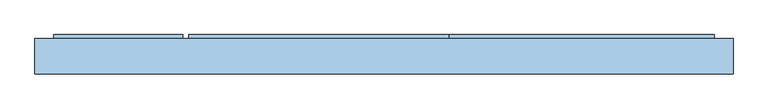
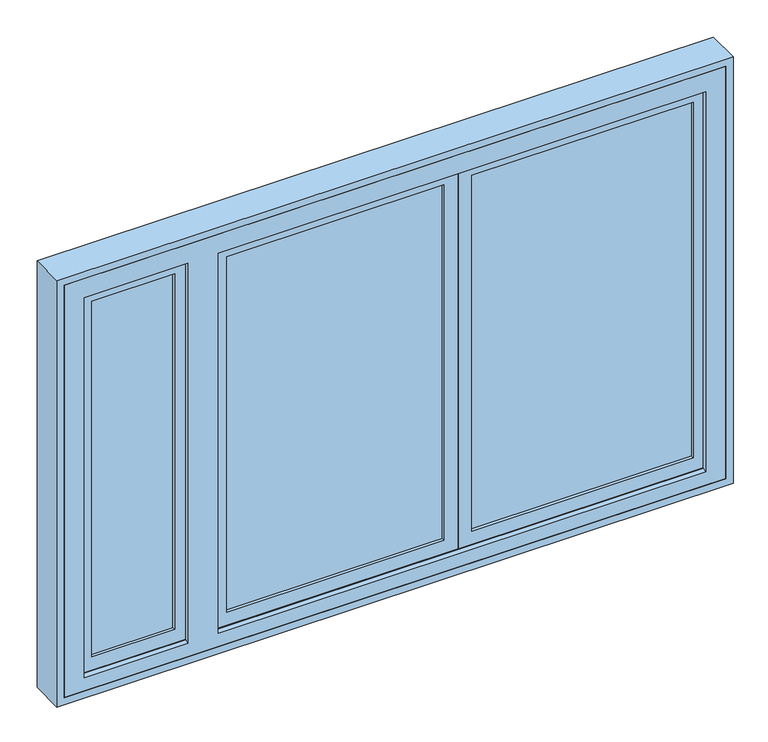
"""IFC4 building model written with IfcOpenShell, lengths in millimetres: window geometry, Окно 3-Распашное - Разделенные наружные и парные внутренние переплеты с остеклением - ГОСТ 11214-2003 : ОД РСП Г1 1760-2670-138 ГОСТ 11214-2003."""

from ifc_helpers import new_model, si_unit, frame, origin, place, context, project, spatial, polyline, outline, extrude, faceted_brep, source, transform, mapped, element, save


def window_e44eff39(model_context):
    return source(origin(), model_context, "Body", "SolidModel", [
        extrude(outline(polyline([(2620.0, 1345.0), (2620.0, -1385.0), (800.0, -1385.0), (800.0, 1345.0), (2620.0, 1345.0)]), holes=[polyline([(2590.0, -1355.0), (2590.0, 1315.0), (830.0, 1315.0), (830.0, -1355.0), (2590.0, -1355.0)])]), frame((0.0, -305.0, 0.0), z_axis=(0.0, 1.0, 0.0), x_axis=(0.0, 0.0, 1.0)), (0.0, 0.0, 1.0), 138.0),
        extrude(outline(polyline([(1226.0383918, -168.0), (280.5, -168.0), (280.5, -165.0), (1226.0383918, -165.0), (1226.0383918, -168.0)])), frame((0.0, 0.0, 919.0), z_axis=(0.0, 0.0, 1.0), x_axis=(1.0, 0.0, 0.0)), (0.0, 0.0, 1.0), 1582.0),
        extrude(outline(polyline([(1226.0, -215.0), (280.5, -215.0), (280.5, -212.0), (1226.0, -212.0), (1226.0, -215.0)])), frame((0.0, 0.0, 919.0), z_axis=(0.0, 0.0, 1.0), x_axis=(1.0, 0.0, 0.0)), (0.0, 0.0, 1.0), 1582.0),
        extrude(outline(polyline([(207.5, -168.0), (-739.0, -168.0), (-739.0, -165.0), (207.5, -165.0), (207.5, -168.0)])), frame((0.0, 0.0, 919.0), z_axis=(0.0, 0.0, 1.0), x_axis=(1.0, 0.0, 0.0)), (0.0, 0.0, 1.0), 1582.0),
        extrude(outline(polyline([(207.5, -215.0), (-739.0, -215.0), (-739.0, -212.0), (207.5, -212.0), (207.5, -215.0)])), frame((0.0, 0.0, 919.0), z_axis=(0.0, 0.0, 1.0), x_axis=(1.0, 0.0, 0.0)), (0.0, 0.0, 1.0), 1582.0),
        extrude(outline(polyline([(-851.0, -168.0), (-1266.0, -168.0), (-1266.0, -165.0), (-851.0, -165.0), (-851.0, -168.0)])), frame((0.0, 0.0, 919.0), z_axis=(0.0, 0.0, 1.0), x_axis=(1.0, 0.0, 0.0)), (0.0, 0.0, 1.0), 1582.0),
        extrude(outline(polyline([(-851.0, -215.0), (-1266.0, -215.0), (-1266.0, -212.0), (-851.0, -212.0), (-851.0, -215.0)])), frame((0.0, 0.0, 919.0), z_axis=(0.0, 0.0, 1.0), x_axis=(1.0, 0.0, 0.0)), (0.0, 0.0, 1.0), 1582.0),
        extrude(outline(polyline([(1214.0, -275.0), (280.5, -275.0), (280.5, -272.0), (1214.0, -272.0), (1214.0, -275.0)])), frame((0.0, 0.0, 931.0), z_axis=(0.0, 0.0, 1.0), x_axis=(1.0, 0.0, 0.0)), (0.0, 0.0, 1.0), 1558.0),
        extrude(outline(polyline([(207.5, -275.0), (-710.0, -275.0), (-710.0, -272.0), (207.5, -272.0), (207.5, -275.0)])), frame((0.0, 0.0, 931.0), z_axis=(0.0, 0.0, 1.0), x_axis=(1.0, 0.0, 0.0)), (0.0, 0.0, 1.0), 1558.0),
        extrude(outline(polyline([(-880.0, -275.0), (-1254.0, -275.0), (-1254.0, -272.0), (-880.0, -272.0), (-880.0, -275.0)])), frame((0.0, 0.0, 931.0), z_axis=(0.0, 0.0, 1.0), x_axis=(1.0, 0.0, 0.0)), (0.0, 0.0, 1.0), 1558.0),
        faceted_brep([(1259.0, -259.0, 2534.0), (1259.0, -259.0, 886.0), (1259.0, -249.0, 886.0), (1259.0, -249.0, 2534.0), (235.5, -249.0, 886.0), (235.5, -249.0, 2534.0), (1194.0, -249.0, 951.0), (1194.0, -249.0, 2469.0), (300.5, -249.0, 2469.0), (300.5, -249.0, 951.0), (235.5, -259.0, 886.0), (235.5, -259.0, 2534.0), (1250.0, -259.0, 2525.0), (1250.0, -259.0, 895.0), (244.5, -259.0, 895.0), (244.5, -259.0, 2525.0), (1250.0, -288.0, 2525.0), (1250.0, -288.0, 895.0), (244.5, -288.0, 895.0), (244.5, -288.0, 2525.0), (1194.0, -288.0, 2469.0), (1194.0, -288.0, 951.0), (300.5, -288.0, 951.0), (300.5, -288.0, 2469.0), (1194.0, -275.0, 2469.0), (1194.0, -275.0, 951.0), (300.5, -275.0, 951.0), (1214.0, -275.0, 2489.0), (1214.0, -275.0, 931.0), (280.5, -275.0, 931.0), (280.5, -275.0, 2489.0), (300.5, -275.0, 2469.0), (1214.0, -272.0, 2489.0), (1214.0, -272.0, 931.0), (280.5, -272.0, 931.0), (280.5, -272.0, 2489.0), (1194.0, -272.0, 2469.0), (1194.0, -272.0, 951.0), (300.5, -272.0, 951.0), (300.5, -272.0, 2469.0)], [[[0, 1, 2, 3]], [[3, 2, 4, 5], [6, 7, 8, 9]], [[1, 10, 4, 2]], [[1, 0, 11, 10], [12, 13, 14, 15]], [[16, 17, 13, 12]], [[17, 18, 14, 13]], [[17, 16, 19, 18], [20, 21, 22, 23]], [[24, 25, 21, 20]], [[25, 26, 22, 21]], [[27, 28, 29, 30], [25, 24, 31, 26]], [[32, 33, 28, 27]], [[33, 34, 29, 28]], [[33, 32, 35, 34], [36, 37, 38, 39]], [[7, 6, 37, 36]], [[6, 9, 38, 37]], [[10, 11, 5, 4]], [[18, 19, 15, 14]], [[26, 31, 23, 22]], [[34, 35, 30, 29]], [[9, 8, 39, 38]], [[11, 0, 3, 5]], [[19, 16, 12, 15]], [[31, 24, 20, 23]], [[35, 32, 27, 30]], [[8, 7, 36, 39]]]),
        faceted_brep([(1206.0, -215.0, 2481.0), (1206.0, -215.0, 939.0), (1206.0, -228.0, 939.0), (1206.0, -228.0, 2481.0), (1262.0, -228.0, 883.0), (1262.0, -228.0, 2537.0), (244.5, -228.0, 2537.0), (244.5, -228.0, 883.0), (300.5, -228.0, 939.0), (300.5, -228.0, 2481.0), (300.5, -215.0, 939.0), (1226.0, -215.0, 2501.0), (1226.0, -215.0, 919.0), (280.5, -215.0, 919.0), (280.5, -215.0, 2501.0), (300.5, -215.0, 2481.0), (1226.0, -212.0, 2501.0), (1226.0, -212.0, 919.0), (280.5, -212.0, 919.0), (280.5, -212.0, 2501.0), (1206.0, -212.0, 2481.0), (1206.0, -212.0, 939.0), (300.5, -212.0, 939.0), (300.5, -212.0, 2481.0), (1206.0, -196.0, 2481.0), (1206.0, -196.0, 939.0), (300.5, -196.0, 939.0), (1262.0, -196.0, 2537.0), (1262.0, -196.0, 883.0), (244.5, -196.0, 883.0), (244.5, -196.0, 2537.0), (300.5, -196.0, 2481.0)], [[[0, 1, 2, 3]], [[4, 5, 6, 7], [3, 2, 8, 9]], [[1, 10, 8, 2]], [[11, 12, 13, 14], [1, 0, 15, 10]], [[16, 17, 12, 11]], [[17, 18, 13, 12]], [[17, 16, 19, 18], [20, 21, 22, 23]], [[24, 25, 21, 20]], [[25, 26, 22, 21]], [[27, 28, 29, 30], [25, 24, 31, 26]], [[5, 4, 28, 27]], [[4, 7, 29, 28]], [[10, 15, 9, 8]], [[18, 19, 14, 13]], [[26, 31, 23, 22]], [[7, 6, 30, 29]], [[15, 0, 3, 9]], [[19, 16, 11, 14]], [[31, 24, 20, 23]], [[6, 5, 27, 30]]]),
        faceted_brep([(1262.0, -194.0, 2537.0), (1262.0, -194.0, 883.0), (1262.0, -165.0, 883.0), (1262.0, -165.0, 2537.0), (1271.0, -165.0, 874.0), (1271.0, -165.0, 2546.0), (235.5, -165.0, 2546.0), (235.5, -165.0, 874.0), (244.5, -165.0, 883.0), (244.5, -165.0, 2537.0), (244.5, -194.0, 883.0), (244.5, -194.0, 2537.0), (1206.0, -194.0, 2481.0), (1206.0, -194.0, 939.0), (300.5, -194.0, 939.0), (300.5, -194.0, 2481.0), (1206.0, -152.0, 2481.0), (1206.0, -152.0, 939.0), (1206.0, -165.0, 939.0), (1206.0, -165.0, 2481.0), (1226.0, -165.0, 919.0), (1226.0, -165.0, 2501.0), (280.5, -165.0, 2501.0), (280.5, -165.0, 919.0), (300.5, -165.0, 939.0), (300.5, -165.0, 2481.0), (300.5, -152.0, 939.0), (1271.0, -152.0, 2546.0), (1271.0, -152.0, 874.0), (235.5, -152.0, 874.0), (235.5, -152.0, 2546.0), (300.5, -152.0, 2481.0), (300.5, -168.0, 939.0), (300.5, -168.0, 2481.0), (1206.0, -168.0, 939.0), (1206.0, -168.0, 2481.0), (1226.0, -168.0, 2501.0), (1226.0, -168.0, 919.0), (280.5, -168.0, 919.0), (280.5, -168.0, 2501.0)], [[[0, 1, 2, 3]], [[4, 5, 6, 7], [3, 2, 8, 9]], [[1, 10, 8, 2]], [[1, 0, 11, 10], [12, 13, 14, 15]], [[16, 17, 18, 19]], [[20, 21, 22, 23], [19, 18, 24, 25]], [[17, 26, 24, 18]], [[27, 28, 29, 30], [17, 16, 31, 26]], [[5, 4, 28, 27]], [[4, 7, 29, 28]], [[10, 11, 9, 8]], [[26, 31, 25, 24]], [[7, 6, 30, 29]], [[32, 33, 15, 14]], [[34, 32, 14, 13]], [[35, 34, 13, 12]], [[36, 37, 38, 39], [34, 35, 33, 32]], [[21, 20, 37, 36]], [[20, 23, 38, 37]], [[23, 22, 39, 38]], [[11, 0, 3, 9]], [[31, 16, 19, 25]], [[6, 5, 27, 30]], [[33, 35, 12, 15]], [[22, 21, 36, 39]]]),
        faceted_brep([(232.5, -259.0, 2525.0), (232.5, -261.0, 2525.0), (232.5, -261.0, 895.0), (232.5, -259.0, 895.0), (232.5, -259.0, 886.0), (232.5, -249.0, 886.0), (232.5, -249.0, 2534.0), (232.5, -259.0, 2534.0), (-755.0, -249.0, 886.0), (-755.0, -249.0, 2534.0), (-690.0, -249.0, 2469.0), (-690.0, -249.0, 951.0), (187.5, -249.0, 951.0), (187.5, -249.0, 2469.0), (-755.0, -259.0, 886.0), (-755.0, -259.0, 2534.0), (-746.0, -259.0, 895.0), (-746.0, -259.0, 2525.0), (242.5, -261.0, 895.0), (242.5, -288.0, 895.0), (-746.0, -288.0, 895.0), (242.5, -261.0, 2525.0), (-746.0, -288.0, 2525.0), (187.5, -272.0, 2469.0), (187.5, -272.0, 951.0), (-690.0, -272.0, 951.0), (-690.0, -272.0, 2469.0), (-710.0, -272.0, 931.0), (207.5, -272.0, 931.0), (207.5, -272.0, 2489.0), (-710.0, -272.0, 2489.0), (-710.0, -275.0, 2489.0), (-710.0, -275.0, 931.0), (207.5, -275.0, 931.0), (207.5, -275.0, 2489.0), (-690.0, -275.0, 2469.0), (-690.0, -275.0, 951.0), (187.5, -275.0, 951.0), (187.5, -275.0, 2469.0), (187.5, -288.0, 2469.0), (187.5, -288.0, 951.0), (-690.0, -288.0, 951.0), (-690.0, -288.0, 2469.0), (242.5, -288.0, 2525.0)], [[[0, 1, 2, 3, 4, 5, 6, 7]], [[5, 8, 9, 6], [10, 11, 12, 13]], [[14, 8, 5, 4]], [[7, 15, 14, 4, 3, 16, 17, 0]], [[16, 3, 2, 18, 19, 20]], [[21, 18, 2, 1]], [[16, 20, 22, 17]], [[15, 9, 8, 14]], [[23, 13, 12, 24]], [[25, 24, 12, 11]], [[10, 26, 25, 11]], [[27, 28, 29, 30], [26, 23, 24, 25]], [[30, 31, 32, 27]], [[28, 33, 34, 29]], [[33, 28, 27, 32]], [[31, 34, 33, 32], [35, 36, 37, 38]], [[39, 38, 37, 40]], [[41, 40, 37, 36]], [[35, 42, 41, 36]], [[43, 22, 20, 19], [42, 39, 40, 41]], [[43, 19, 18, 21]], [[6, 9, 15, 7]], [[43, 21, 1, 0, 17, 22]], [[10, 13, 23, 26]], [[29, 34, 31, 30]], [[35, 38, 39, 42]]]),
        faceted_brep([(232.5, -152.0, 874.0), (232.5, -152.0, 2546.0), (232.5, -165.0, 2546.0), (232.5, -165.0, 2536.0), (232.5, -167.0, 2536.0), (232.5, -167.0, 884.0), (232.5, -165.0, 884.0), (232.5, -165.0, 874.0), (-784.0, -165.0, 874.0), (-784.0, -152.0, 874.0), (-774.0, -165.0, 884.0), (-774.0, -165.0, 2536.0), (-784.0, -165.0, 2546.0), (242.5, -167.0, 884.0), (242.5, -194.0, 884.0), (-774.0, -194.0, 884.0), (242.5, -167.0, 2536.0), (-784.0, -152.0, 2546.0), (-719.0, -152.0, 939.0), (187.5, -152.0, 939.0), (187.5, -152.0, 2481.0), (-719.0, -152.0, 2481.0), (-774.0, -194.0, 2536.0), (242.5, -194.0, 2536.0), (-719.0, -194.0, 939.0), (-719.0, -194.0, 2481.0), (187.5, -194.0, 2481.0), (187.5, -194.0, 939.0), (187.5, -168.0, 939.0), (-719.0, -168.0, 939.0), (187.5, -168.0, 2481.0), (-719.0, -168.0, 2481.0), (-739.0, -168.0, 2501.0), (207.5, -168.0, 2501.0), (207.5, -168.0, 919.0), (-739.0, -168.0, 919.0), (-739.0, -165.0, 919.0), (-739.0, -165.0, 2501.0), (207.5, -165.0, 919.0), (207.5, -165.0, 2501.0), (-719.0, -165.0, 939.0), (-719.0, -165.0, 2481.0), (187.5, -165.0, 2481.0), (187.5, -165.0, 939.0)], [[[0, 1, 2, 3, 4, 5, 6, 7]], [[7, 8, 9, 0]], [[10, 11, 3, 2, 12, 8, 7, 6]], [[10, 6, 5, 13, 14, 15]], [[16, 13, 5, 4]], [[0, 9, 17, 1], [18, 19, 20, 21]], [[15, 22, 11, 10]], [[14, 23, 22, 15], [24, 25, 26, 27]], [[23, 14, 13, 16]], [[24, 27, 28, 29]], [[28, 27, 26, 30]], [[24, 29, 31, 25]], [[32, 33, 34, 35], [29, 28, 30, 31]], [[35, 36, 37, 32]], [[34, 38, 36, 35]], [[33, 39, 38, 34]], [[36, 38, 39, 37], [40, 41, 42, 43]], [[40, 43, 19, 18]], [[19, 43, 42, 20]], [[40, 18, 21, 41]], [[9, 8, 12, 17]], [[23, 16, 4, 3, 11, 22]], [[17, 12, 2, 1]], [[31, 30, 26, 25]], [[39, 33, 32, 37]], [[21, 20, 42, 41]]]),
        faceted_brep([(-763.0, -228.0, 884.0), (-763.0, -228.0, 2536.0), (-763.0, -196.0, 2536.0), (-763.0, -196.0, 884.0), (242.5, -196.0, 884.0), (242.5, -228.0, 884.0), (242.5, -196.0, 2536.0), (187.5, -196.0, 939.0), (187.5, -196.0, 2481.0), (-719.0, -196.0, 2481.0), (-719.0, -196.0, 939.0), (242.5, -228.0, 2536.0), (187.5, -228.0, 2481.0), (187.5, -228.0, 939.0), (-719.0, -228.0, 939.0), (-719.0, -228.0, 2481.0), (-719.0, -215.0, 2481.0), (-719.0, -215.0, 939.0), (187.5, -215.0, 939.0), (187.5, -215.0, 2481.0), (207.5, -215.0, 919.0), (-739.0, -215.0, 919.0), (-739.0, -215.0, 2501.0), (207.5, -215.0, 2501.0), (207.5, -212.0, 2501.0), (207.5, -212.0, 919.0), (-739.0, -212.0, 919.0), (-739.0, -212.0, 2501.0), (187.5, -212.0, 2481.0), (187.5, -212.0, 939.0), (-719.0, -212.0, 939.0), (-719.0, -212.0, 2481.0)], [[[0, 1, 2, 3]], [[0, 3, 4, 5]], [[2, 6, 4, 3], [7, 8, 9, 10]], [[0, 5, 11, 1], [12, 13, 14, 15]], [[16, 15, 14, 17]], [[18, 17, 14, 13]], [[12, 19, 18, 13]], [[5, 4, 6, 11]], [[20, 21, 22, 23], [19, 16, 17, 18]], [[23, 24, 25, 20]], [[21, 26, 27, 22]], [[26, 21, 20, 25]], [[24, 27, 26, 25], [28, 29, 30, 31]], [[9, 31, 30, 10]], [[7, 10, 30, 29]], [[28, 8, 7, 29]], [[11, 6, 2, 1]], [[12, 15, 16, 19]], [[22, 27, 24, 23]], [[28, 31, 9, 8]]]),
        faceted_brep([(-827.0, -228.0, 884.0), (-1301.0, -228.0, 884.0), (-1301.0, -196.0, 884.0), (-827.0, -196.0, 884.0), (-827.0, -196.0, 2536.0), (-827.0, -228.0, 2536.0), (-1301.0, -196.0, 2536.0), (-870.8851315, -196.0, 2481.0), (-1246.0, -196.0, 2481.0), (-1246.0, -196.0, 939.0), (-870.8851315, -196.0, 939.0), (-1301.0, -228.0, 2536.0), (-870.8851315, -228.0, 939.0), (-1246.0, -228.0, 939.0), (-1246.0, -228.0, 2481.0), (-870.8851315, -228.0, 2481.0), (-1266.0, -215.0, 919.0), (-1266.0, -212.0, 919.0), (-1266.0, -212.0, 2501.0), (-1266.0, -215.0, 2501.0), (-851.0, -215.0, 2501.0), (-851.0, -215.0, 919.0), (-870.8851315, -215.0, 2481.0), (-1246.0, -215.0, 2481.0), (-1246.0, -215.0, 939.0), (-870.8851315, -215.0, 939.0), (-851.0, -212.0, 919.0), (-851.0, -212.0, 2501.0), (-870.8851315, -212.0, 939.0), (-1246.0, -212.0, 939.0), (-1246.0, -212.0, 2481.0), (-870.8851315, -212.0, 2481.0)], [[[0, 1, 2, 3]], [[0, 3, 4, 5]], [[4, 3, 2, 6], [7, 8, 9, 10]], [[2, 1, 11, 6]], [[11, 1, 0, 5], [12, 13, 14, 15]], [[16, 17, 18, 19]], [[19, 20, 21, 16], [22, 23, 24, 25]], [[21, 26, 17, 16]], [[20, 27, 26, 21]], [[25, 12, 15, 22]], [[13, 12, 25, 24]], [[13, 24, 23, 14]], [[17, 26, 27, 18], [28, 29, 30, 31]], [[31, 7, 10, 28]], [[8, 30, 29, 9]], [[29, 28, 10, 9]], [[4, 6, 11, 5]], [[27, 20, 19, 18]], [[23, 22, 15, 14]], [[8, 7, 31, 30]]]),
        faceted_brep([(-844.0, -288.0, 2525.0), (-844.0, -288.0, 895.0), (-844.0, -259.0, 895.0), (-844.0, -259.0, 2525.0), (-835.0, -259.0, 886.0), (-835.0, -259.0, 2534.0), (-1299.0, -259.0, 2534.0), (-1299.0, -259.0, 886.0), (-1290.0, -259.0, 895.0), (-1290.0, -259.0, 2525.0), (-1290.0, -288.0, 895.0), (-1290.0, -288.0, 2525.0), (-900.0, -288.0, 2469.0), (-900.0, -288.0, 951.0), (-1234.0, -288.0, 951.0), (-1234.0, -288.0, 2469.0), (-900.0, -249.0, 2469.0), (-900.0, -249.0, 951.0), (-900.0, -272.0, 951.0), (-900.0, -272.0, 2469.0), (-880.0, -272.0, 931.0), (-880.0, -272.0, 2489.0), (-1254.0, -272.0, 2489.0), (-1254.0, -272.0, 931.0), (-1234.0, -272.0, 951.0), (-1234.0, -272.0, 2469.0), (-1234.0, -249.0, 951.0), (-835.0, -249.0, 2534.0), (-835.0, -249.0, 886.0), (-1299.0, -249.0, 886.0), (-1299.0, -249.0, 2534.0), (-1234.0, -249.0, 2469.0), (-1234.0, -275.0, 951.0), (-1234.0, -275.0, 2469.0), (-900.0, -275.0, 951.0), (-900.0, -275.0, 2469.0), (-880.0, -275.0, 2489.0), (-880.0, -275.0, 931.0), (-1254.0, -275.0, 931.0), (-1254.0, -275.0, 2489.0)], [[[0, 1, 2, 3]], [[4, 5, 6, 7], [3, 2, 8, 9]], [[1, 10, 8, 2]], [[1, 0, 11, 10], [12, 13, 14, 15]], [[16, 17, 18, 19]], [[20, 21, 22, 23], [19, 18, 24, 25]], [[17, 26, 24, 18]], [[27, 28, 29, 30], [17, 16, 31, 26]], [[5, 4, 28, 27]], [[4, 7, 29, 28]], [[10, 11, 9, 8]], [[26, 31, 25, 24]], [[7, 6, 30, 29]], [[32, 33, 15, 14]], [[34, 32, 14, 13]], [[35, 34, 13, 12]], [[36, 37, 38, 39], [34, 35, 33, 32]], [[21, 20, 37, 36]], [[20, 23, 38, 37]], [[23, 22, 39, 38]], [[11, 0, 3, 9]], [[31, 16, 19, 25]], [[6, 5, 27, 30]], [[33, 35, 12, 15]], [[22, 21, 36, 39]]]),
        faceted_brep([(-816.0, -194.0, 2536.0), (-816.0, -194.0, 884.0), (-816.0, -165.0, 884.0), (-816.0, -165.0, 2536.0), (-806.0, -165.0, 874.0), (-806.0, -165.0, 2546.0), (-1311.0, -165.0, 2546.0), (-1311.0, -165.0, 874.0), (-1301.0, -165.0, 884.0), (-1301.0, -165.0, 2536.0), (-1301.0, -194.0, 884.0), (-1301.0, -194.0, 2536.0), (-871.0, -194.0, 2481.0), (-871.0, -194.0, 939.0), (-1246.0, -194.0, 939.0), (-1246.0, -194.0, 2481.0), (-871.0, -152.0, 2481.0), (-871.0, -152.0, 939.0), (-871.0, -165.0, 939.0), (-871.0, -165.0, 2481.0), (-851.0, -165.0, 919.0), (-851.0, -165.0, 2501.0), (-1266.0, -165.0, 2501.0), (-1266.0, -165.0, 919.0), (-1246.0, -165.0, 939.0), (-1246.0, -165.0, 2481.0), (-1246.0, -152.0, 939.0), (-806.0, -152.0, 2546.0), (-806.0, -152.0, 874.0), (-1311.0, -152.0, 874.0), (-1311.0, -152.0, 2546.0), (-1246.0, -152.0, 2481.0), (-1246.0, -168.0, 939.0), (-1246.0, -168.0, 2481.0), (-871.0, -168.0, 939.0), (-871.0, -168.0, 2481.0), (-851.0, -168.0, 2501.0), (-851.0, -168.0, 919.0), (-1266.0, -168.0, 919.0), (-1266.0, -168.0, 2501.0)], [[[0, 1, 2, 3]], [[4, 5, 6, 7], [3, 2, 8, 9]], [[1, 10, 8, 2]], [[1, 0, 11, 10], [12, 13, 14, 15]], [[16, 17, 18, 19]], [[20, 21, 22, 23], [19, 18, 24, 25]], [[17, 26, 24, 18]], [[27, 28, 29, 30], [17, 16, 31, 26]], [[5, 4, 28, 27]], [[4, 7, 29, 28]], [[10, 11, 9, 8]], [[26, 31, 25, 24]], [[7, 6, 30, 29]], [[32, 33, 15, 14]], [[34, 32, 14, 13]], [[35, 34, 13, 12]], [[36, 37, 38, 39], [34, 35, 33, 32]], [[21, 20, 37, 36]], [[20, 23, 38, 37]], [[23, 22, 39, 38]], [[11, 0, 3, 9]], [[31, 16, 19, 25]], [[6, 5, 27, 30]], [[33, 35, 12, 15]], [[22, 21, 36, 39]]]),
        faceted_brep([(1315.0, -305.0, 830.0), (-1355.0, -305.0, 830.0), (-1355.0, -167.0, 830.0), (1315.0, -167.0, 830.0), (1315.0, -167.0, 2590.0), (1315.0, -305.0, 2590.0), (-1355.0, -167.0, 2590.0), (1264.0, -167.0, 881.0), (1264.0, -167.0, 2539.0), (-777.0, -167.0, 2539.0), (-777.0, -167.0, 881.0), (-1304.0, -167.0, 881.0), (-813.0, -167.0, 881.0), (-813.0, -167.0, 2539.0), (-1304.0, -167.0, 2539.0), (-1355.0, -305.0, 2590.0), (-1274.0, -305.0, 887.1764763), (-1274.0, -305.0, 2509.0), (-856.0, -305.0, 2509.0), (-856.0, -305.0, 887.1764763), (1234.0, -305.0, 887.1764763), (-734.0, -305.0, 887.1764763), (-734.0, -305.0, 2509.0), (1234.0, -305.0, 2509.0), (-1304.0, -261.0, 2539.0), (-1304.0, -261.0, 881.0), (-777.0, -196.0, 881.0), (-765.0, -196.0, 881.0), (-765.0, -261.0, 881.0), (1264.0, -261.0, 881.0), (-825.0, -261.0, 881.0), (-825.0, -196.0, 881.0), (-813.0, -196.0, 881.0), (-765.0, -261.0, 2539.0), (1264.0, -261.0, 2539.0), (1252.0, -261.0, 2527.0), (-747.0, -261.0, 2527.0), (-747.0, -261.0, 893.0), (1252.0, -261.0, 893.0), (-825.0, -261.0, 2539.0), (-1292.0, -261.0, 893.0), (-843.0, -261.0, 893.0), (-843.0, -261.0, 2527.0), (-1292.0, -261.0, 2527.0), (-1292.0, -289.0, 2527.0), (-1292.0, -289.0, 893.0), (-747.0, -289.0, 893.0), (-734.0, -289.0, 893.0), (1234.0, -289.0, 893.0), (1252.0, -289.0, 893.0), (-1274.0, -289.0, 893.0), (-856.0, -289.0, 893.0), (-843.0, -289.0, 893.0), (-843.0, -289.0, 2527.0), (-856.0, -289.0, 2509.0), (-1274.0, -289.0, 2509.0), (1234.0, -289.0, 2509.0), (-734.0, -289.0, 2509.0), (-747.0, -289.0, 2527.0), (1252.0, -289.0, 2527.0), (-765.0, -196.0, 2539.0), (-777.0, -196.0, 2539.0), (-813.0, -196.0, 2539.0), (-825.0, -196.0, 2539.0)], [[[0, 1, 2, 3]], [[3, 4, 5, 0]], [[4, 3, 2, 6], [7, 8, 9, 10], [11, 12, 13, 14]], [[6, 2, 1, 15]], [[15, 1, 0, 5], [16, 17, 18, 19], [20, 21, 22, 23]], [[24, 25, 11, 14]], [[7, 10, 26, 27, 28, 29]], [[30, 31, 32, 12, 11, 25]], [[29, 28, 33, 34], [35, 36, 37, 38]], [[24, 39, 30, 25], [40, 41, 42, 43]], [[44, 45, 40, 43]], [[38, 37, 46, 47, 48, 49]], [[45, 50, 51, 52, 41, 40]], [[50, 45, 44, 53, 52, 51, 54, 55]], [[49, 48, 56, 57, 47, 46, 58, 59]], [[17, 16, 50, 55]], [[16, 19, 51, 50]], [[48, 47, 21, 20]], [[8, 7, 29, 34]], [[60, 33, 28, 27]], [[61, 60, 27, 26]], [[9, 61, 26, 10]], [[62, 13, 12, 32]], [[63, 62, 32, 31]], [[31, 30, 39, 63]], [[41, 52, 53, 42]], [[35, 38, 49, 59]], [[36, 58, 46, 37]], [[18, 54, 51, 19]], [[56, 48, 20, 23]], [[21, 47, 57, 22]], [[4, 6, 15, 5]], [[14, 13, 62, 63, 39, 24]], [[33, 60, 61, 9, 8, 34]], [[43, 42, 53, 44]], [[58, 36, 35, 59]], [[23, 22, 57, 56]], [[55, 54, 18, 17]]]),
    ])


if __name__ == "__main__":
    model = new_model("IFC4")
    model_context = context("Model", 3, world=origin())
    ifc_project = project(units=[si_unit("LENGTHUNIT", "METRE", prefix="MILLI")], contexts=[model_context])
    site = spatial("IfcSite", under=ifc_project)
    building = spatial("IfcBuilding", under=site)
    placement = place(None, origin())
    window_shape = window_e44eff39(model_context)
    element("IfcWindow", 1, ObjectType="Окно 3-Распашное - Разделенные наружные и парные внутренние переплеты с остеклением - ГОСТ 11214-2003 : ОД РСП Г1 1760-2670-138 ГОСТ 11214-2003", at=placement, inside=building, context=model_context, shape_type="MappedRepresentation", body=[
        mapped(window_shape, transform((0.0, 0.0, 0.0), x_axis=(1.0, 0.0, 0.0), y_axis=(0.0, 1.0, 0.0), z_axis=(0.0, 0.0, 1.0))),
    ])
    save(model, "model.ifc")
